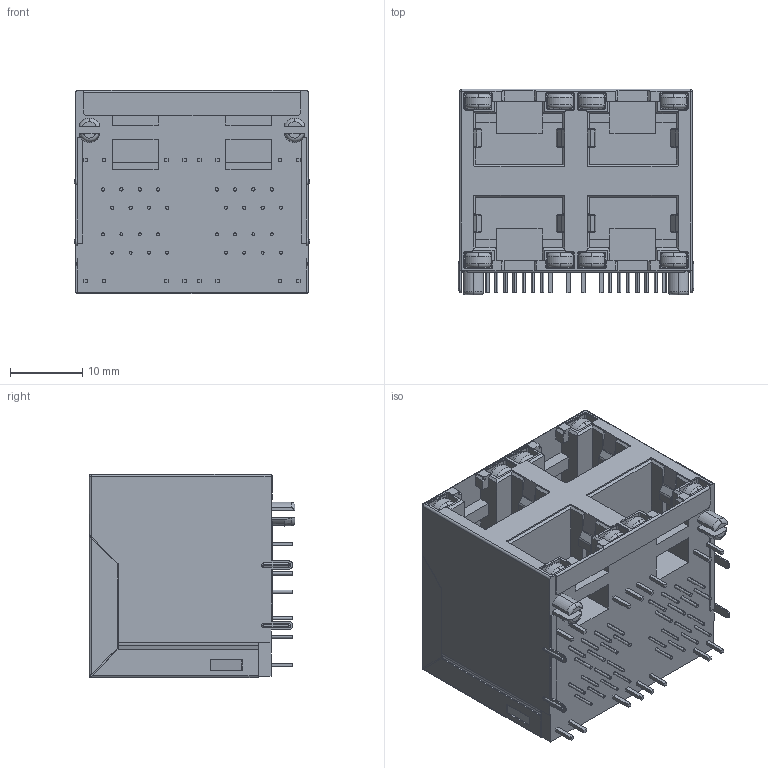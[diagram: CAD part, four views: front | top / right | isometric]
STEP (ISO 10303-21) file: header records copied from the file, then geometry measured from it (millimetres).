
FILE_DESCRIPTION (( 'STEP AP203' ), '1' );
FILE_NAME ('HC-RJ45-059A-2x2-2 (湍腑拸粟-HCTL).STEP', '2026-03-17T09:16:52', ( '' ), ( '' ), 'SwSTEP 2.0', 'SolidWorks 2025', '' );
FILE_SCHEMA (( 'CONFIG_CONTROL_DESIGN' ));
Length unit declared in the file: millimetre
Products named in the file (1): HC-RJ45-059A-2x2-2 (带灯无弹-HCTL)
Bounding box: 32.65 x 28.5 x 28.15 mm (x, y, z)
Volume: 18518.3 mm3; surface area: 7727.6 mm2
Topology: 1 solids, 1 shells, 999 faces, 2629 edges, 1662 vertices
Faces by surface type: plane 628, cylinder 283, torus 50, sphere 36, cone 2
Entity records: 30533 total; most frequent: CARTESIAN_POINT 5550, DIRECTION 5219, ORIENTED_EDGE 5202, EDGE_CURVE 2601, VECTOR 1843, LINE 1843, AXIS2_PLACEMENT_3D 1688, VERTEX_POINT 1662
